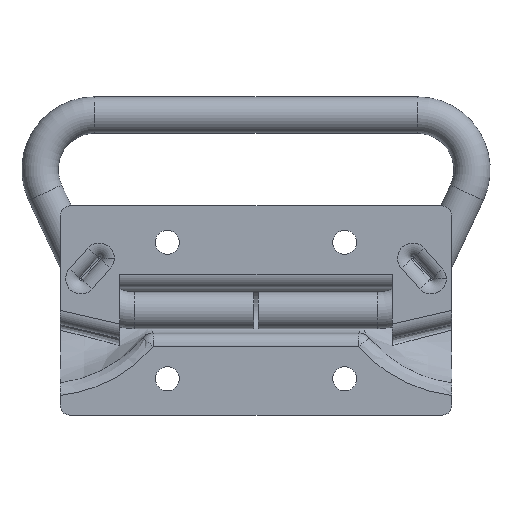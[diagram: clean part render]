
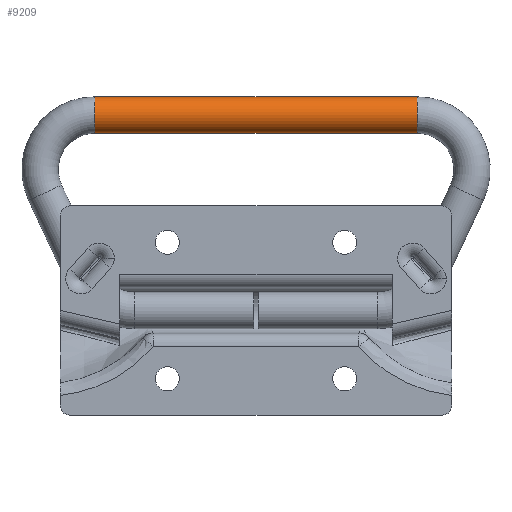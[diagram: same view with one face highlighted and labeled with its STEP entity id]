
A CAD part, front view. The second image highlights one B-rep face of the part: STEP entity #9209.
In plain terms, the highlighted cylindrical face has radius 4 mm (diameter 8 mm), a partial arc.
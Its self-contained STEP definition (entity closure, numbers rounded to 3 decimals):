
#40 = DIRECTION ( 'NONE',  ( 1., 0., 0. ) ) ;
#64 = FACE_OUTER_BOUND ( 'NONE', #8946, .T. ) ;
#378 = CARTESIAN_POINT ( 'NONE',  ( 35.5, 0., -39. ) ) ;
#1313 = VERTEX_POINT ( 'NONE', #378 ) ;
#1553 = DIRECTION ( 'NONE',  ( -1., 0., 0. ) ) ;
#1788 = AXIS2_PLACEMENT_3D ( 'NONE', #6330, #40, #7400 ) ;
#1976 = ORIENTED_EDGE ( 'NONE', *, *, #11657, .T. ) ;
#2029 = CARTESIAN_POINT ( 'NONE',  ( -35.5, 0., -47. ) ) ;
#2604 = DIRECTION ( 'NONE',  ( 0., 0., 1. ) ) ;
#3097 = LINE ( 'NONE', #4134, #11501 ) ;
#3136 = DIRECTION ( 'NONE',  ( 1., 0., 0. ) ) ;
#4002 = ORIENTED_EDGE ( 'NONE', *, *, #7301, .F. ) ;
#4134 = CARTESIAN_POINT ( 'NONE',  ( 35.5, 0., -47. ) ) ;
#4227 = CARTESIAN_POINT ( 'NONE',  ( -35.5, 0., -39. ) ) ;
#4738 = VERTEX_POINT ( 'NONE', #5099 ) ;
#5099 = CARTESIAN_POINT ( 'NONE',  ( 35.5, 0., -47. ) ) ;
#5704 = EDGE_CURVE ( 'NONE', #4738, #10106, #3097, .T. ) ;
#5722 = EDGE_CURVE ( 'NONE', #10863, #10106, #8684, .T. ) ;
#5936 = AXIS2_PLACEMENT_3D ( 'NONE', #9961, #11028, #2604 ) ;
#6330 = CARTESIAN_POINT ( 'NONE',  ( 35.5, 0., -43. ) ) ;
#7053 = ORIENTED_EDGE ( 'NONE', *, *, #5722, .T. ) ;
#7301 = EDGE_CURVE ( 'NONE', #1313, #4738, #13253, .T. ) ;
#7400 = DIRECTION ( 'NONE',  ( 0., 0., -1. ) ) ;
#7863 = CARTESIAN_POINT ( 'NONE',  ( 35.5, 0., -39. ) ) ;
#7987 = VECTOR ( 'NONE', #1553, 1000. ) ;
#8684 = CIRCLE ( 'NONE', #9197, 4. ) ;
#8946 = EDGE_LOOP ( 'NONE', ( #9100, #4002, #1976, #7053 ) ) ;
#9100 = ORIENTED_EDGE ( 'NONE', *, *, #5704, .F. ) ;
#9197 = AXIS2_PLACEMENT_3D ( 'NONE', #9421, #3136, #10486 ) ;
#9209 = ADVANCED_FACE ( 'NONE', ( #64 ), #13394, .T. ) ;
#9421 = CARTESIAN_POINT ( 'NONE',  ( -35.5, 0., -43. ) ) ;
#9961 = CARTESIAN_POINT ( 'NONE',  ( 35.5, 0., -43. ) ) ;
#10106 = VERTEX_POINT ( 'NONE', #2029 ) ;
#10486 = DIRECTION ( 'NONE',  ( 0., 0., -1. ) ) ;
#10813 = LINE ( 'NONE', #7863, #7987 ) ;
#10863 = VERTEX_POINT ( 'NONE', #4227 ) ;
#11028 = DIRECTION ( 'NONE',  ( -1., 0., 0. ) ) ;
#11501 = VECTOR ( 'NONE', #11509, 1000. ) ;
#11509 = DIRECTION ( 'NONE',  ( -1., 0., 0. ) ) ;
#11657 = EDGE_CURVE ( 'NONE', #1313, #10863, #10813, .T. ) ;
#13253 = CIRCLE ( 'NONE', #1788, 4. ) ;
#13394 = CYLINDRICAL_SURFACE ( 'NONE', #5936, 4. ) ;
